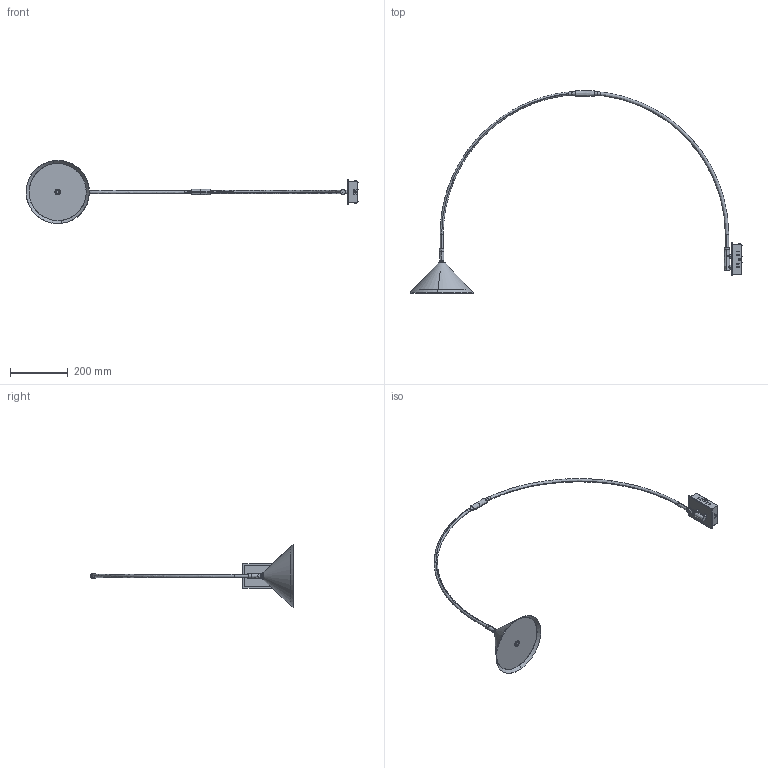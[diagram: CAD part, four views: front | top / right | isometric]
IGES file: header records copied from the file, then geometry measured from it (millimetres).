
Start section: SolidWorks IGES file using analytic representation for surfaces
Global section: file name: C:\Users\Agustin\Desktop\ENERO 2025\2D-3D\2D-3D HINO\HINOO_A1266.IGS; native system: SolidWorks 2018; preprocessor: SolidWorks 2018; author: Agustin; date: 250117.130119; units: millimetre
Bounding box: 1151.23 x 701.93 x 219.84 mm (x, y, z)
Surface area: 324841.4 mm2 (no closed solid volume)
Topology: 0 solids, 0 shells, 647 faces, 11622 edges, 11620 vertices
Faces by surface type: revolution 347, bspline 300
